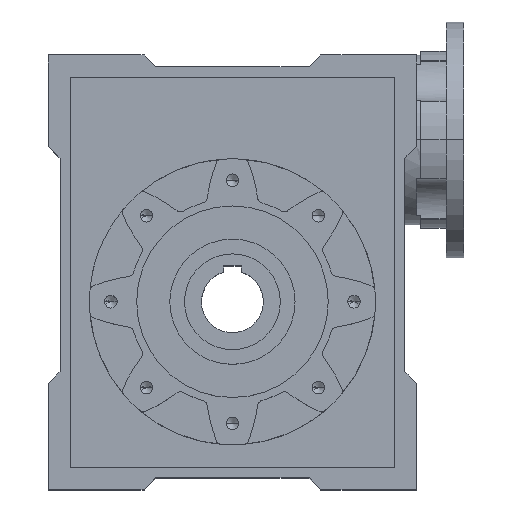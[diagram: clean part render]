
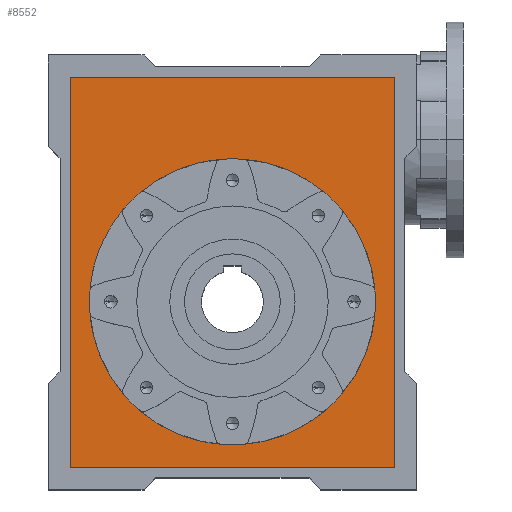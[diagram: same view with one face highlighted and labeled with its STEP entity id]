
A CAD part, top view. The second image highlights one B-rep face of the part: STEP entity #8552.
In plain terms, the highlighted planar face has unit normal (0, 0, 1).
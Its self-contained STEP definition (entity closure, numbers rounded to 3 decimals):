
#238 = VERTEX_POINT ( 'NONE', #7892 ) ;
#239 = VERTEX_POINT ( 'NONE', #7893 ) ;
#563 = EDGE_LOOP ( 'NONE', ( #1533, #1535, #1534, #1536 ) ) ;
#564 = EDGE_LOOP ( 'NONE', ( #1538, #1540 ) ) ;
#1533 = ORIENTED_EDGE ( 'NONE', *, *, #6035, .T. ) ;
#1534 = ORIENTED_EDGE ( 'NONE', *, *, #6036, .T. ) ;
#1535 = ORIENTED_EDGE ( 'NONE', *, *, #6034, .T. ) ;
#1536 = ORIENTED_EDGE ( 'NONE', *, *, #6037, .T. ) ;
#1538 = ORIENTED_EDGE ( 'NONE', *, *, #6038, .F. ) ;
#1540 = ORIENTED_EDGE ( 'NONE', *, *, #10536, .F. ) ;
#1876 = VECTOR ( 'NONE', #4124, 1000. ) ;
#1923 = VECTOR ( 'NONE', #4127, 1000. ) ;
#1964 = VECTOR ( 'NONE', #4121, 1000. ) ;
#2237 = AXIS2_PLACEMENT_3D ( 'NONE', #3829, #3830, #3831 ) ;
#2240 = FACE_BOUND ( 'NONE', #564, .T. ) ;
#2243 = FACE_OUTER_BOUND ( 'NONE', #563, .T. ) ;
#2647 = VECTOR ( 'NONE', #4118, 1000. ) ;
#2652 = AXIS2_PLACEMENT_3D ( 'NONE', #4115, #4128, #4129 ) ;
#3634 = CARTESIAN_POINT ( 'NONE',  ( 110., -112.5, 45. ) ) ;
#3635 = CARTESIAN_POINT ( 'NONE',  ( -110., -112.5, 45. ) ) ;
#3636 = CARTESIAN_POINT ( 'NONE',  ( -110., 152.5, 45. ) ) ;
#3637 = CARTESIAN_POINT ( 'NONE',  ( 110., 152.5, 45. ) ) ;
#3828 = PLANE ( 'NONE',  #2237 ) ;
#3829 = CARTESIAN_POINT ( 'NONE',  ( -110., 152.5, 45. ) ) ;
#3830 = DIRECTION ( 'NONE',  ( 0., 0., 1. ) ) ;
#3831 = DIRECTION ( 'NONE',  ( 1., 0., 0. ) ) ;
#4115 = CARTESIAN_POINT ( 'NONE',  ( 0., 0., 45. ) ) ;
#4116 = LINE ( 'NONE', #4117, #2647 ) ;
#4117 = CARTESIAN_POINT ( 'NONE',  ( -110., 152.5, 45. ) ) ;
#4118 = DIRECTION ( 'NONE',  ( 0., -1., 0. ) ) ;
#4119 = LINE ( 'NONE', #4120, #1964 ) ;
#4120 = CARTESIAN_POINT ( 'NONE',  ( 110., 152.5, 45. ) ) ;
#4121 = DIRECTION ( 'NONE',  ( -1., 0., 0. ) ) ;
#4122 = LINE ( 'NONE', #4123, #1876 ) ;
#4123 = CARTESIAN_POINT ( 'NONE',  ( -110., -112.5, 45. ) ) ;
#4124 = DIRECTION ( 'NONE',  ( 1., 0., 0. ) ) ;
#4125 = LINE ( 'NONE', #4126, #1923 ) ;
#4126 = CARTESIAN_POINT ( 'NONE',  ( 110., -112.5, 45. ) ) ;
#4127 = DIRECTION ( 'NONE',  ( 0., 1., 0. ) ) ;
#4128 = DIRECTION ( 'NONE',  ( 0., 0., 1. ) ) ;
#4129 = DIRECTION ( 'NONE',  ( 1., 0., 0. ) ) ;
#6034 = EDGE_CURVE ( 'NONE', #7512, #7511, #4116, .T. ) ;
#6035 = EDGE_CURVE ( 'NONE', #7513, #7512, #4119, .T. ) ;
#6036 = EDGE_CURVE ( 'NONE', #7511, #7510, #4122, .T. ) ;
#6037 = EDGE_CURVE ( 'NONE', #7510, #7513, #4125, .T. ) ;
#6038 = EDGE_CURVE ( 'NONE', #239, #238, #8497, .T. ) ;
#7510 = VERTEX_POINT ( 'NONE', #3634 ) ;
#7511 = VERTEX_POINT ( 'NONE', #3635 ) ;
#7512 = VERTEX_POINT ( 'NONE', #3636 ) ;
#7513 = VERTEX_POINT ( 'NONE', #3637 ) ;
#7892 = CARTESIAN_POINT ( 'NONE',  ( 97., 0., 45. ) ) ;
#7893 = CARTESIAN_POINT ( 'NONE',  ( -97., 0., 45. ) ) ;
#8255 = CIRCLE ( 'NONE', #9366, 97. ) ;
#8497 = CIRCLE ( 'NONE', #2652, 97. ) ;
#8552 = ADVANCED_FACE ( 'NONE', ( #2243, #2240 ), #3828, .T. ) ;
#9366 = AXIS2_PLACEMENT_3D ( 'NONE', #10024, #10025, #10026 ) ;
#10024 = CARTESIAN_POINT ( 'NONE',  ( 0., 0., 45. ) ) ;
#10025 = DIRECTION ( 'NONE',  ( 0., 0., 1. ) ) ;
#10026 = DIRECTION ( 'NONE',  ( 1., 0., 0. ) ) ;
#10536 = EDGE_CURVE ( 'NONE', #238, #239, #8255, .T. ) ;
